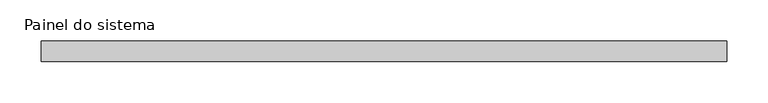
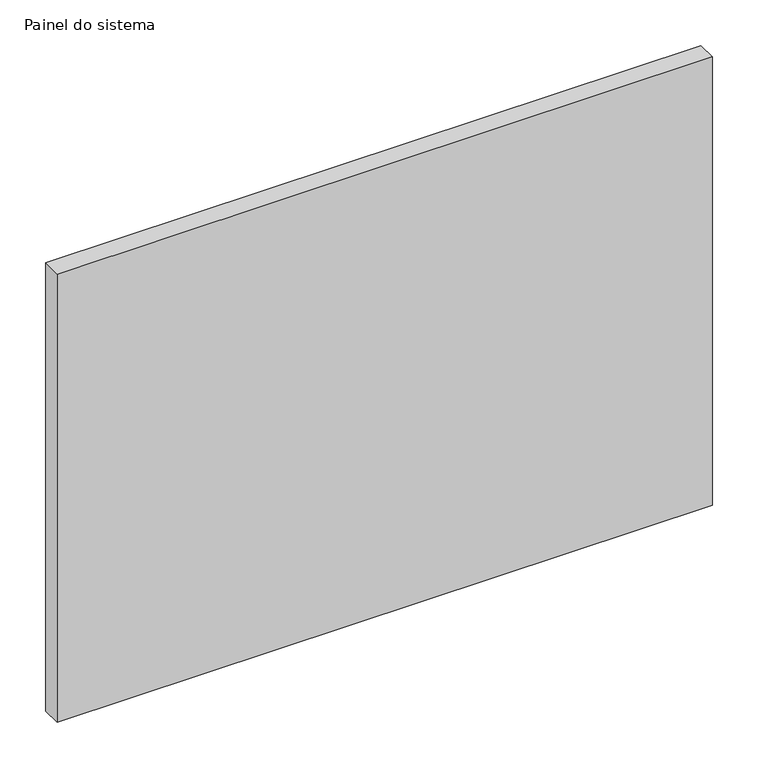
"""IFC4 building model written with IfcOpenShell, lengths in millimetres: plate geometry, Painel do sistema : Envidraçado."""

from ifc_helpers import new_model, si_unit, origin, origin_with_axes, place, context, project, spatial, polyline, outline, extrude, source, transform, mapped, element, save


def painel_do_sistema_5dd7dcd2(model_context):
    return source(origin(), model_context, "Body", "SweptSolid", [
        extrude(outline(polyline([(415.0, 24.5), (-415.0, 24.5), (-415.0, 49.5), (415.0, 49.5), (415.0, 24.5)])), origin_with_axes(), (0.0, 0.0, 1.0), 600.0),
    ])


if __name__ == "__main__":
    model = new_model("IFC4")
    model_context = context("Model", 3, world=origin())
    ifc_project = project(units=[si_unit("LENGTHUNIT", "METRE", prefix="MILLI")], contexts=[model_context])
    site = spatial("IfcSite", under=ifc_project)
    building = spatial("IfcBuilding", under=site)
    placement = place(None, origin())
    painel_do_sistema_shape = painel_do_sistema_5dd7dcd2(model_context)
    element("IfcPlate", 1, ObjectType="Painel do sistema : Envidraçado", at=placement, inside=building, context=model_context, shape_type="MappedRepresentation", body=[
        mapped(painel_do_sistema_shape, transform((0.0, 0.0, 0.0), x_axis=(1.0, 0.0, 0.0), y_axis=(0.0, 1.0, 0.0), z_axis=(0.0, 0.0, 1.0))),
    ])
    save(model, "model.ifc")
